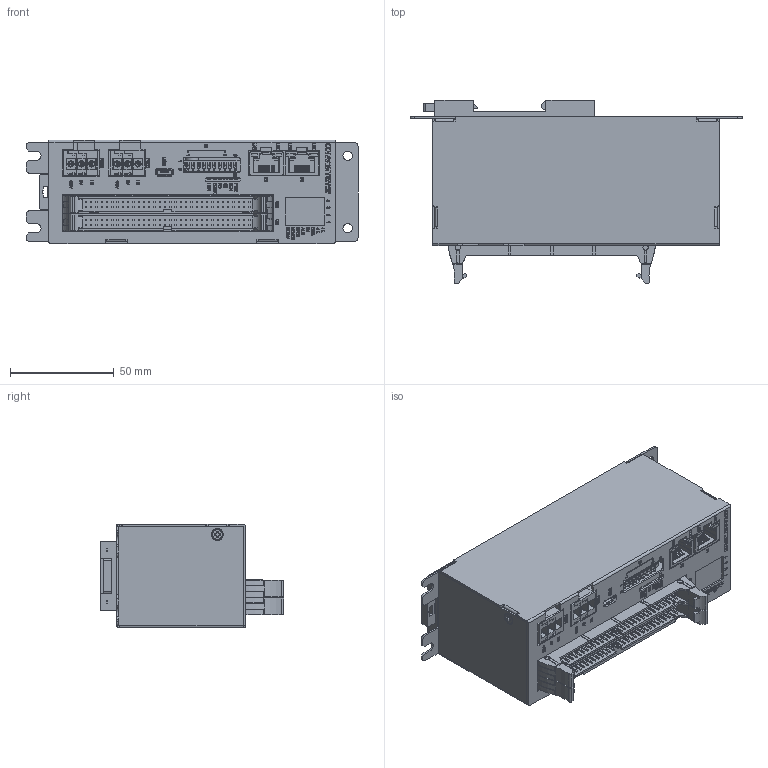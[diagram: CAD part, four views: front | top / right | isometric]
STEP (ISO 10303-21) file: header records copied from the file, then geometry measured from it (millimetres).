
FILE_DESCRIPTION((''),'2;1');
FILE_NAME('ECMM-D','2026-05-11T16:48:59',('gijyu181'),(''),'CREO PARAMETRIC BY PTC INC, 2018050','CREO PARAMETRIC BY PTC INC, 2018050','');
FILE_SCHEMA(('CONFIG_CONTROL_DESIGN','SHAPE_APPEARANCE_LAYERS_GROUPS'));
Products named in the file (1): ECMM-D
Bounding box: 160 x 88.5 x 50 mm (x, y, z)
Volume: 100381.5 mm3; surface area: 140103.3 mm2
Topology: 4 solids, 17 shells, 10281 faces, 28246 edges, 18587 vertices
Faces by surface type: plane 8058, extrusion 1325, cylinder 742, cone 72, torus 42, bspline 28, sphere 14
Entity records: 404010 total; most frequent: CARTESIAN_POINT 70259, ORIENTED_EDGE 56484, DIRECTION 46421, EDGE_CURVE 28246, VECTOR 25001, LINE 23676, VERTEX_POINT 18587, PRESENTATION_STYLE_ASSIGNMENT 11841
